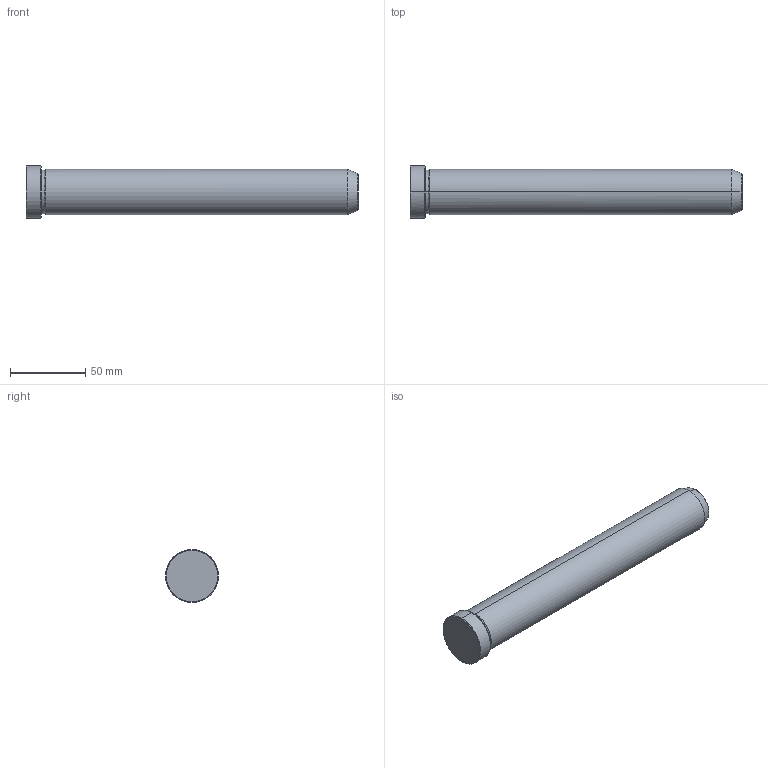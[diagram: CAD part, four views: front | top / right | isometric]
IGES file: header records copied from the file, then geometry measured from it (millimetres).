
Start section: START RECORD GO HERE.
Global section: file name: 549-30X220.igs; native system: DASSAULT SYSTEMES CATIA V5 R20 - www.3ds.com; preprocessor: CATIA Version 5 Release 20 ; author: Utente; organization: NB04-ASUS; date: 20211217.153709; units: millimetre
Bounding box: 220 x 35 x 35 mm (x, y, z)
Surface area: 22558.7 mm2 (no closed solid volume)
Topology: 0 solids, 0 shells, 19 faces, 112 edges, 112 vertices
Faces by surface type: revolution 16, plane 3
